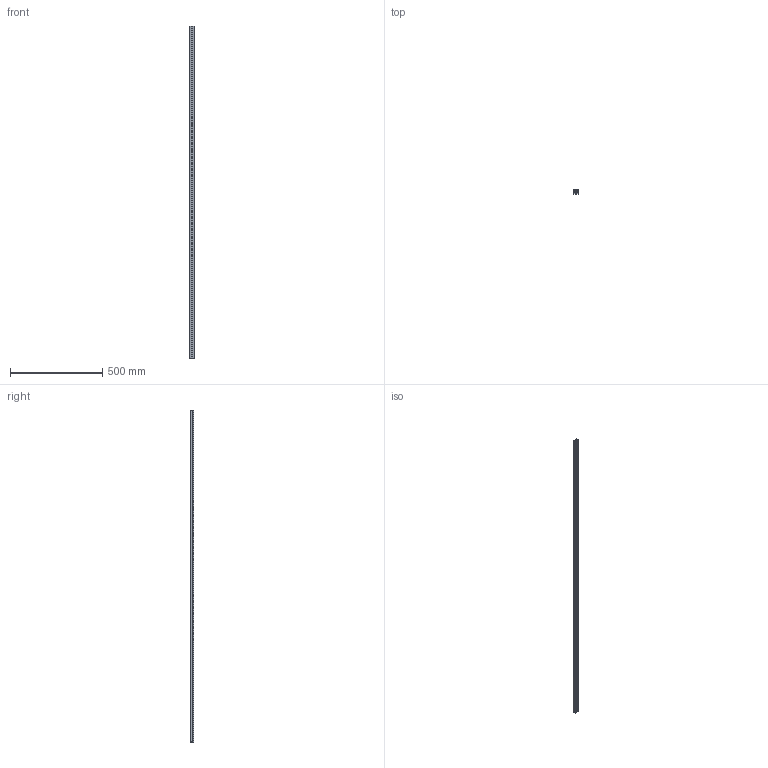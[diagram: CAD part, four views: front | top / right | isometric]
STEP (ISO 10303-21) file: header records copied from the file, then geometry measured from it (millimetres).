
FILE_DESCRIPTION (( 'STEP AP203' ), '1' );
FILE_NAME ('MLF 1_-_MLF 1 1798 mm lang.step', '2005-06-03T08:17:27', ( ' ' ), ( ' ' ), 'SwSTEP 2.0', 'SolidWorks 2004231', '' );
FILE_SCHEMA (( 'CONFIG_CONTROL_DESIGN' ));
Length unit declared in the file: millimetre
Products named in the file (1): MLF 1_-_MLF 1  1798 mm lang
Bounding box: 30 x 20 x 1798 mm (x, y, z)
Volume: 727360.9 mm3; surface area: 316267.6 mm2
Topology: 1 solids, 1 shells, 72 faces, 222 edges, 144 vertices
Faces by surface type: plane 52, cylinder 20
Entity records: 2543 total; most frequent: ORIENTED_EDGE 444, CARTESIAN_POINT 439, DIRECTION 408, EDGE_CURVE 222, LINE 182, VECTOR 182, VERTEX_POINT 144, AXIS2_PLACEMENT_3D 113
